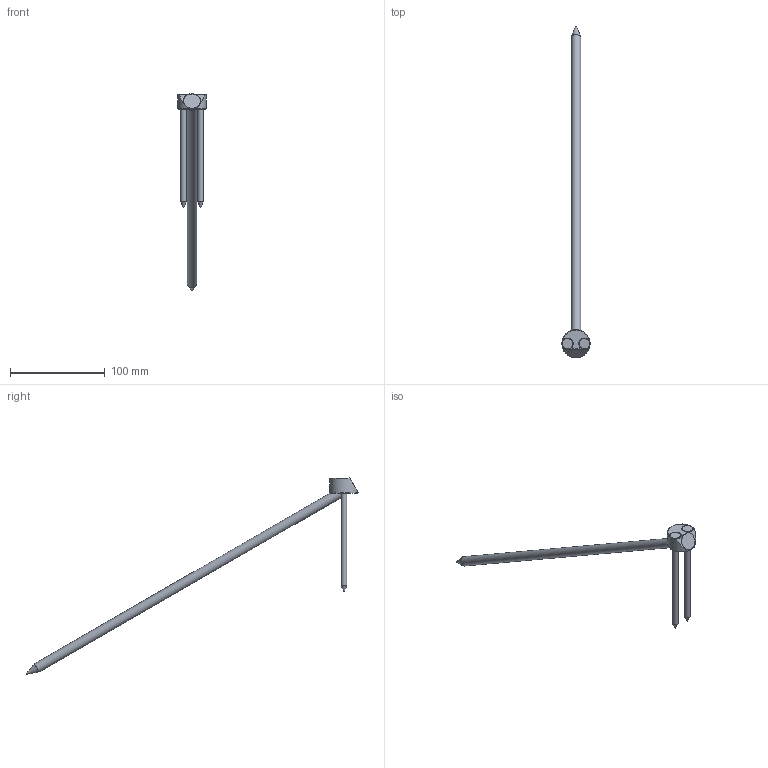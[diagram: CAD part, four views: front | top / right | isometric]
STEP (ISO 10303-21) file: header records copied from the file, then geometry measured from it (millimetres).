
FILE_DESCRIPTION(/* description */ ('Unknown'),/* implementation_level */ '2;1');
FILE_NAME(/* name */ 'T-JOINT_D30_W30_2xSK 6x120_1xSK 10x400',/* time_stamp */ '2022-02-03T09:59:10+01:00',/* author */ ('Unknown'),/* organization */ ('Unknown'),/* preprocessor_version */ 'ST-DEVELOPER v16.7',/* originating_system */ 'Solid Edge',/* authorisation */ 'Unknown');
FILE_SCHEMA (('AUTOMOTIVE_DESIGN {1 0 10303 214 3 1 1}'));
Length unit declared in the file: millimetre
Products named in the file (4): T-Joint_D30_W30_2xSK6x120_1xSK10x400; T-Joint_D30_W30; SK Schraube 6x120_ohne_Gewinde; SK Schraube 10x400_ohne_Gewinde_22042020
Assembly tree (4 placements, depth 2):
  T-Joint_D30_W30_2xSK6x120_1xSK10x400
    T-Joint_D30_W30
    SK Schraube 6x120_ohne_Gewinde  x2
    SK Schraube 10x400_ohne_Gewinde_22042020
Bounding box: 29.76 x 351.3 x 208.21 mm (x, y, z)
Volume: 44987.2 mm3; surface area: 20972.4 mm2
Topology: 4 solids, 4 shells, 35 faces, 75 edges, 46 vertices
Faces by surface type: cylinder 12, plane 11, cone 9, torus 3
Full cylindrical faces by diameter (mm): 6 x2, 6.2 x2, 6.3 x1, 10 x2, 10.5 x1, 11 x2, 18 x1
Entity records: 804 total; most frequent: CARTESIAN_POINT 145, DIRECTION 134, ORIENTED_EDGE 82, AXIS2_PLACEMENT_3D 66, EDGE_LOOP 51, FACE_BOUND 51, EDGE_CURVE 41, VERTEX_POINT 34
